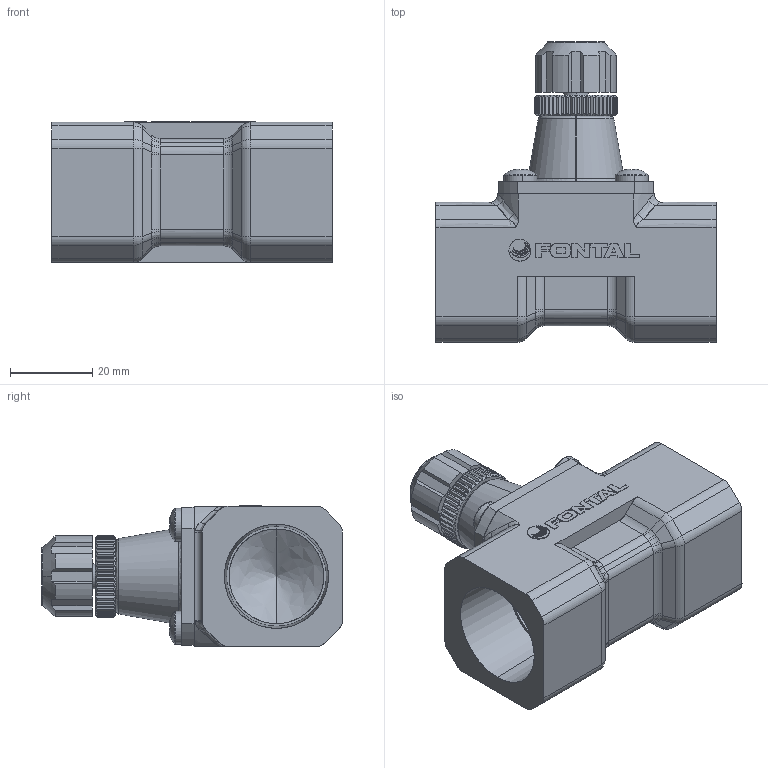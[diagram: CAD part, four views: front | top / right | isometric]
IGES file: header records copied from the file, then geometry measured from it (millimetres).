
Start section: SolidWorks IGES file using analytic representation for surfaces
Global section: file name: D:\Custom\3D繪製\Z-H\15\SP-15-6.IGS,1; native system: 5HSolidWorks 2014; preprocessor: SolidWorks 2014; author: Chieh_Lu; date: 160115.042032; units: millimetre
Bounding box: 68 x 73 x 34.15 mm (x, y, z)
Surface area: 22404.7 mm2 (no closed solid volume)
Topology: 0 solids, 0 shells, 695 faces, 4912 edges, 4900 vertices
Faces by surface type: bspline 380, revolution 315
